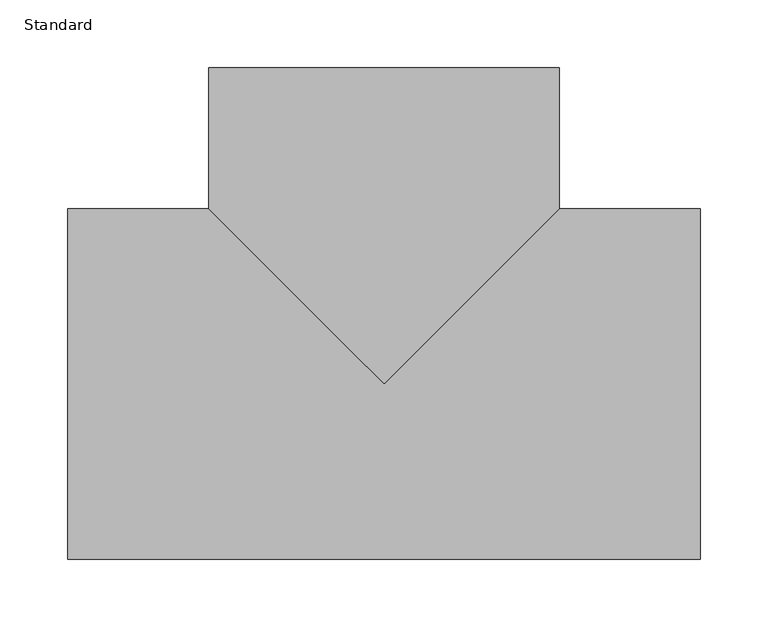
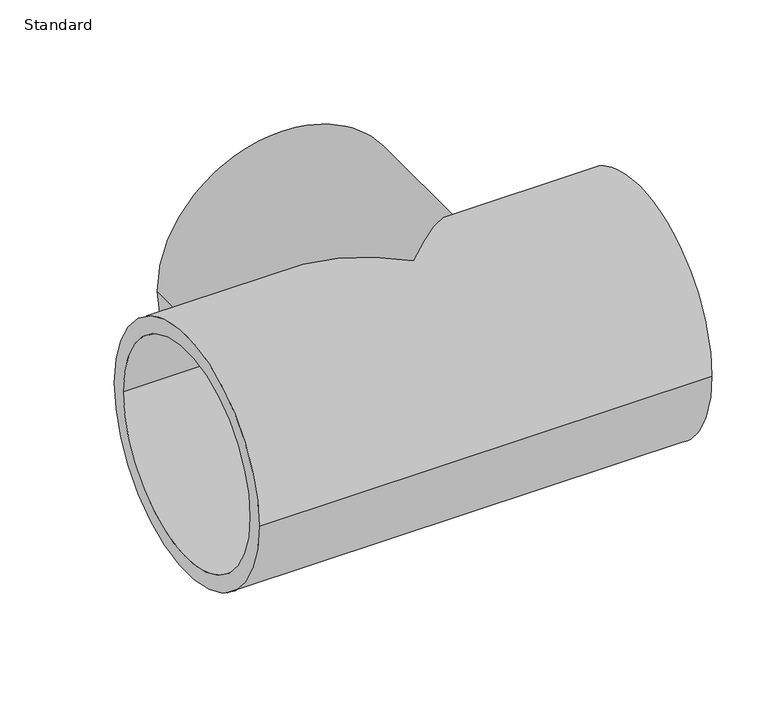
"""IFC4 building model written with IfcOpenShell, lengths in millimetres: pipe fitting geometry, Durapipe_PipeFitting_PVC_Tee90degEqual : Standard."""

import ifcopenshell
import ifcopenshell.guid

model = None  # the IFC model being written
_history = None  # IfcOwnerHistory: only IFC2X3 demands one
_inside = {}  # id of a spatial element -> (the spatial element, [elements in it])
_under = {}  # id of a project, library or spatial element -> (it, [spatial elements below it])
_declared = {}  # id of a project -> (the project, [libraries it declares])
_typed = {}  # id of a type object -> (the type object, [elements of that type])
_made_of = {}  # id of a material, layer set ... -> (it, [elements and type objects made of it])


def new_model(schema):
    """Start an empty IFC model of exactly this schema.

    Asked for "IFC4X3", IfcOpenShell would pick the latest addendum, in which some entities
    have other attributes; the version numbers below select the first issue.
    IFC2X3 requires an IfcOwnerHistory on every rooted entity: one is made here for all.
    """
    global model, _history
    if schema == "IFC4X3":
        model = ifcopenshell.file(schema_version=(4, 3, 0, 0))
    else:
        model = ifcopenshell.file(schema=schema)
    _inside.clear()
    _under.clear()
    _declared.clear()
    _typed.clear()
    _made_of.clear()
    _history = None
    if model.schema == "IFC2X3":
        org = make("IfcOrganization", Name="unknown")
        user = make(
            "IfcPersonAndOrganization",
            ThePerson=make("IfcPerson", FamilyName="unknown"),
            TheOrganization=org,
        )
        app = make(
            "IfcApplication",
            ApplicationDeveloper=org,
            Version="unknown",
            ApplicationFullName="unknown",
            ApplicationIdentifier="unknown",
        )
        _history = make(
            "IfcOwnerHistory",
            OwningUser=user,
            OwningApplication=app,
            ChangeAction="ADDED",
            CreationDate=0,
        )
    return model


def make(cls, **values):
    """One entity of the class cls with the attributes given. An attribute that is None is left unset."""
    return model.create_entity(
        cls, **{name: value for name, value in values.items() if value is not None}
    )


def rooted(cls, **values):
    """An entity with a GlobalId (a new one), such as an element, a storey or a relation."""
    return make(cls, GlobalId=ifcopenshell.guid.new(), OwnerHistory=_history, **values)


def si_unit(unit_type, name, prefix=None):
    """IfcSIUnit, for example si_unit("LENGTHUNIT", "METRE", prefix="MILLI")."""
    return make("IfcSIUnit", UnitType=unit_type, Prefix=prefix, Name=name)


def assignment(units):
    """IfcUnitAssignment: the units of a project."""
    return None if units is None else make("IfcUnitAssignment", Units=units)


def point(xyz):
    """IfcCartesianPoint."""
    return None if xyz is None else make("IfcCartesianPoint", Coordinates=xyz)


def direction(xyz):
    """IfcDirection."""
    return None if xyz is None else make("IfcDirection", DirectionRatios=xyz)


def frame(location, z_axis=None, x_axis=None):
    """IfcAxis2Placement3D, a coordinate frame: its origin and axes. An axis left out is left unset."""
    return make(
        "IfcAxis2Placement3D",
        Location=point(location),
        Axis=direction(z_axis),
        RefDirection=direction(x_axis),
    )


def origin():
    """The frame at (0, 0, 0) with its axes left unset."""
    return frame((0.0, 0.0, 0.0))


def place(relative_to, where):
    """IfcLocalPlacement: puts the frame where relative to a parent placement (None: the world)."""
    return make(
        "IfcLocalPlacement", PlacementRelTo=relative_to, RelativePlacement=where
    )


def context(
    kind, dimensions, precision=None, world=None, true_north=None, identifier=None
):
    """IfcGeometricRepresentationContext, for example the 3D "Model" context."""
    return make(
        "IfcGeometricRepresentationContext",
        ContextIdentifier=identifier,
        ContextType=kind,
        CoordinateSpaceDimension=dimensions,
        Precision=precision,
        WorldCoordinateSystem=world,
        TrueNorth=true_north,
    )


def project(units=None, contexts=None):
    """IfcProject with its units and contexts."""
    return rooted(
        "IfcProject",
        Name="project",
        RepresentationContexts=contexts,
        UnitsInContext=assignment(units),
    )


def spatial(cls, under=None, at=None, **own):
    """A site, building, storey or space (cls), placed at a placement, below another one or the project."""
    s = rooted(cls, ObjectPlacement=at, **own)
    if under is not None:
        _under.setdefault(under.id(), (under, []))[1].append(s)
    return s


def polyline(points):
    """IfcPolyline through the points."""
    return make("IfcPolyline", Points=[point(p) for p in points])


def circle_curve(where, radius):
    """IfcCircle in the frame where."""
    return make("IfcCircle", Position=where, Radius=radius)


def ellipse_curve(where, semi_axis1, semi_axis2):
    """IfcEllipse in the frame where."""
    return make(
        "IfcEllipse", Position=where, SemiAxis1=semi_axis1, SemiAxis2=semi_axis2
    )


def shape(context_of_items, identifier, shape_type, items):
    """IfcShapeRepresentation: the items that make up one representation, for example the "Body"."""
    return make(
        "IfcShapeRepresentation",
        ContextOfItems=context_of_items,
        RepresentationIdentifier=identifier,
        RepresentationType=shape_type,
        Items=items,
    )


def source(mapping_origin, context_of_items, identifier, shape_type, items):
    """IfcRepresentationMap: a shape defined once, which mapped items show again and again."""
    return make(
        "IfcRepresentationMap",
        MappingOrigin=mapping_origin,
        MappedRepresentation=shape(context_of_items, identifier, shape_type, items),
    )


def transform(
    local_origin,
    x_axis=None,
    y_axis=None,
    z_axis=None,
    scale=None,
    scale2=None,
    scale3=None,
    uniform=True,
):
    """IfcCartesianTransformationOperator3D, or its non-uniform kind. x_axis, y_axis, z_axis: its Axis1, 2, 3."""
    if uniform:
        return make(
            "IfcCartesianTransformationOperator3D",
            Axis1=direction(x_axis),
            Axis2=direction(y_axis),
            LocalOrigin=point(local_origin),
            Scale=scale,
            Axis3=direction(z_axis),
        )
    return make(
        "IfcCartesianTransformationOperator3DnonUniform",
        Axis1=direction(x_axis),
        Axis2=direction(y_axis),
        LocalOrigin=point(local_origin),
        Scale=scale,
        Axis3=direction(z_axis),
        Scale2=scale2,
        Scale3=scale3,
    )


def mapped(mapping_source, mapping_target):
    """IfcMappedItem: shows the shape of a source again, moved by a transform."""
    return make(
        "IfcMappedItem", MappingSource=mapping_source, MappingTarget=mapping_target
    )


def made_of(thing, what):
    """Note that an element or type object is made of a material, layer set ...; save() writes the relation."""
    if what is not None:
        _made_of.setdefault(what.id(), (what, []))[1].append(thing)
    return thing


def element(
    cls,
    number,
    at=None,
    inside=None,
    cuts=None,
    type_object=None,
    material=None,
    context=None,
    identifier="Body",
    shape_type=None,
    held_by="IfcProductDefinitionShape",
    body=None,
    shapes=None,
    **own,
):
    """One element of the class cls, such as IfcWall. Its Tag is "e" and its number.

    at: its placement. inside: the storey or other place that contains it. cuts: it is an
    opening in that element (IfcRelVoidsElement). A single representation is given by context,
    identifier, shape_type and body (its items); several are given by shapes. held_by: the class
    of the entity that holds the representations. save() writes the other relations.
    """
    e = rooted(cls, Tag="e%d" % number, ObjectPlacement=at, **own)
    if body is not None:
        shapes = [shape(context, identifier, shape_type, body)]
    if shapes is not None:
        e.Representation = make(held_by, Representations=shapes)
    if inside is not None:
        _inside.setdefault(inside.id(), (inside, []))[1].append(e)
    if cuts is not None:
        rooted(
            "IfcRelVoidsElement", RelatingBuildingElement=cuts, RelatedOpeningElement=e
        )
    if type_object is not None:
        _typed.setdefault(type_object.id(), (type_object, []))[1].append(e)
    return made_of(e, material)


def aggregate(whole, parts):
    """IfcRelAggregates: a whole, such as a stair, and the parts it consists of."""
    return rooted("IfcRelAggregates", RelatingObject=whole, RelatedObjects=parts)


def save(model, path):
    """Write the relations noted so far, then the file.

    IfcRelAggregates (storeys below a building ...), IfcRelContainedInSpatialStructure (elements
    in a storey), IfcRelDefinesByType, IfcRelAssociatesMaterial and IfcRelDeclares: one each for
    every whole, place, type object, material and project.
    """
    for whole, parts in _under.values():
        aggregate(whole, parts)
    for where, things in _inside.values():
        rooted(
            "IfcRelContainedInSpatialStructure",
            RelatedElements=things,
            RelatingStructure=where,
        )
    for kind, things in _typed.values():
        rooted("IfcRelDefinesByType", RelatedObjects=things, RelatingType=kind)
    for what, things in _made_of.values():
        rooted("IfcRelAssociatesMaterial", RelatedObjects=things, RelatingMaterial=what)
    for by, libraries in _declared.values():
        rooted("IfcRelDeclares", RelatingContext=by, RelatedDefinitions=libraries)
    model.write(path)


def plane_surface(at):
    """IfcPlane: the flat surface through the origin of the frame at, square to its z axis."""
    return make("IfcPlane", Position=at)


def cylinder_surface(at, radius):
    """IfcCylindricalSurface: all points at the distance radius from the z axis of the frame at."""
    return make("IfcCylindricalSurface", Position=at, Radius=radius)


def revolved_surface(curve, axis_point, axis_direction):
    """IfcSurfaceOfRevolution: the curve turned about the line through axis_point along axis_direction."""
    return make(
        "IfcSurfaceOfRevolution",
        SweptCurve=make("IfcArbitraryOpenProfileDef", ProfileType="CURVE", Curve=curve),
        AxisPosition=make("IfcAxis1Placement", Location=point(axis_point), Axis=direction(axis_direction)),
    )


def advanced_brep(points, edges, surfaces, faces):
    """IfcAdvancedBrep: a solid bounded by faces that lie on surfaces and meet in shared edges.

    An edge is (start, end): straight between two places in points (the first is 0);
    or (start, end, curve); or (start, end, curve, False) where it runs against its curve.
    A face is (place in surfaces, loops), or (place, loops, False) where it looks against
    its surface's normal. A loop lists edges by number (the first is 1), with a minus sign
    where the edge is run from its end to its start. The first loop is the outer one.
    """
    corners = [point(p) for p in points]
    vertices = [make("IfcVertexPoint", VertexGeometry=c) for c in corners]
    made = []
    for start, end, *more in edges:
        made.append(
            make(
                "IfcEdgeCurve",
                EdgeStart=vertices[start],
                EdgeEnd=vertices[end],
                EdgeGeometry=more[0] if more else make("IfcPolyline", Points=[corners[start], corners[end]]),
                SameSense=more[1] if len(more) > 1 else True,
            )
        )
    hull = []
    for where, loops, *sense in faces:
        bounds = []
        for j, loop in enumerate(loops):
            ring = [make("IfcOrientedEdge", EdgeElement=made[abs(k) - 1], Orientation=k > 0) for k in loop]
            bounds.append(
                make(
                    "IfcFaceOuterBound" if j == 0 else "IfcFaceBound",
                    Bound=make("IfcEdgeLoop", EdgeList=ring),
                    Orientation=True,
                )
            )
        hull.append(make("IfcAdvancedFace", Bounds=bounds, FaceSurface=surfaces[where], SameSense=sense[0] if sense else True))
    return make("IfcAdvancedBrep", Outer=make("IfcClosedShell", CfsFaces=hull))


def standard_31d33d31(model_context):
    return source(origin(), model_context, "Body", "AdvancedBrep", [
        advanced_brep(
        [(-129.0, 233.0, 0.0), (129.0, 233.0, 0.0), (-112.5, 233.0, 0.0), (112.5, 233.0, 0.0), (-129.0, 129.0, 0.0), (0.0, 0.0, 129.0), (129.0, 129.0, 0.0), (0.0, 0.0, -129.0), (-233.0, -129.0, 0.0), (-233.0, 129.0, 0.0), (-233.0, -112.5, 0.0), (-233.0, 112.5, 0.0), (233.0, -129.0, 0.0), (233.0, 129.0, 0.0), (233.0, 112.5, 0.0), (233.0, -112.5, 0.0), (112.5, 114.0, 0.0), (-112.5, 114.0, 0.0), (0.0, 114.0, 0.0), (114.0, -112.5, 0.0), (114.0, 112.5, 0.0), (114.0, 0.0, 0.0), (-114.0, -112.5, 0.0), (-114.0, 112.5, 0.0), (-114.0, 0.0, 0.0)],
        [
            (0, 1, circle_curve(frame((0.0, 233.0, 0.0), z_axis=(0.0, 1.0, 0.0), x_axis=(1.0, 0.0, 0.0)), 129.0)),
            (1, 0, circle_curve(frame((0.0, 233.0, 0.0), z_axis=(0.0, 1.0, 0.0), x_axis=(1.0, 0.0, 0.0)), 129.0)),
            (2, 3, circle_curve(frame((0.0, 233.0, 0.0), z_axis=(0.0, -1.0, 0.0), x_axis=(-1.0, 0.0, 0.0)), 112.5)),
            (3, 2, circle_curve(frame((0.0, 233.0, 0.0), z_axis=(0.0, -1.0, 0.0), x_axis=(-1.0, 0.0, 0.0)), 112.5)),
            (0, 4),
            (4, 5, ellipse_curve(frame((0.0, 0.0, 0.0), z_axis=(0.7071067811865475, 0.7071067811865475, 0.0), x_axis=(-0.7071067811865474, 0.7071067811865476, 0.0)), 182.4335495, 129.0)),
            (5, 6, ellipse_curve(frame((0.0, 0.0, 0.0), z_axis=(-0.7071067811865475, 0.7071067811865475, 0.0), x_axis=(0.7071067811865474, 0.7071067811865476, 0.0)), 182.4335495, 129.0)),
            (6, 1),
            (6, 7, ellipse_curve(frame((0.0, 0.0, 0.0), z_axis=(-0.7071067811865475, 0.7071067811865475, 0.0), x_axis=(0.7071067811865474, 0.7071067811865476, 0.0)), 182.4335495, 129.0)),
            (7, 4, ellipse_curve(frame((0.0, 0.0, 0.0), z_axis=(0.7071067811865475, 0.7071067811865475, 0.0), x_axis=(-0.7071067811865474, 0.7071067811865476, 0.0)), 182.4335495, 129.0)),
            (8, 9, circle_curve(frame((-233.0, 0.0, 0.0), z_axis=(-1.0, 0.0, 0.0), x_axis=(0.0, 1.0, 0.0)), 129.0)),
            (9, 8, circle_curve(frame((-233.0, 0.0, 0.0), z_axis=(-1.0, 0.0, 0.0), x_axis=(0.0, 1.0, 0.0)), 129.0)),
            (10, 11, circle_curve(frame((-233.0, 0.0, 0.0), z_axis=(1.0, 0.0, 0.0), x_axis=(0.0, 1.0, 0.0)), 112.5)),
            (11, 10, circle_curve(frame((-233.0, 0.0, 0.0), z_axis=(1.0, 0.0, 0.0), x_axis=(0.0, 1.0, 0.0)), 112.5)),
            (12, 13, circle_curve(frame((233.0, 0.0, 0.0), z_axis=(1.0, 0.0, 0.0), x_axis=(0.0, 1.0, 0.0)), 129.0)),
            (13, 12, circle_curve(frame((233.0, 0.0, 0.0), z_axis=(1.0, 0.0, 0.0), x_axis=(0.0, 1.0, 0.0)), 129.0)),
            (14, 15, circle_curve(frame((233.0, 0.0, 0.0), z_axis=(-1.0, 0.0, 0.0), x_axis=(0.0, 1.0, 0.0)), 112.5)),
            (15, 14, circle_curve(frame((233.0, 0.0, 0.0), z_axis=(-1.0, 0.0, 0.0), x_axis=(0.0, 1.0, 0.0)), 112.5)),
            (8, 12),
            (13, 6),
            (4, 9),
            (16, 3),
            (2, 17),
            (17, 16, circle_curve(frame((0.0, 114.0, 0.0), z_axis=(0.0, -1.0, 0.0), x_axis=(-1.0, 0.0, 0.0)), 112.5)),
            (16, 17, circle_curve(frame((0.0, 114.0, 0.0), z_axis=(0.0, -1.0, 0.0), x_axis=(-1.0, 0.0, 0.0)), 112.5)),
            (17, 18),
            (18, 16),
            (19, 15),
            (14, 20),
            (20, 19, circle_curve(frame((114.0, 0.0, 0.0), z_axis=(-1.0, 0.0, 0.0), x_axis=(0.0, 1.0, 0.0)), 112.5)),
            (19, 20, circle_curve(frame((114.0, 0.0, 0.0), z_axis=(-1.0, 0.0, 0.0), x_axis=(0.0, 1.0, 0.0)), 112.5)),
            (20, 21),
            (21, 19),
            (10, 22),
            (22, 23, circle_curve(frame((-114.0, 0.0, 0.0), z_axis=(1.0, 0.0, 0.0), x_axis=(0.0, 1.0, 0.0)), 112.5)),
            (23, 11),
            (23, 22, circle_curve(frame((-114.0, 0.0, 0.0), z_axis=(1.0, 0.0, 0.0), x_axis=(0.0, 1.0, 0.0)), 112.5)),
            (22, 24),
            (24, 23),
        ],
        [
            plane_surface(frame((0.0, 233.0, 0.0), z_axis=(0.0, 1.0, 0.0), x_axis=(0.0, 0.0, 1.0))),
            cylinder_surface(frame((0.0, 233.0, 0.0), z_axis=(0.0, 1.0, 0.0), x_axis=(1.0, 0.0, 0.0)), 129.0),
            plane_surface(frame((-233.0, 0.0, 0.0), z_axis=(-1.0, 0.0, 0.0), x_axis=(0.0, 0.0, 1.0))),
            plane_surface(frame((233.0, 0.0, 0.0), z_axis=(1.0, 0.0, 0.0), x_axis=(0.0, 0.0, 1.0))),
            cylinder_surface(frame((-233.0, 0.0, 0.0), z_axis=(-1.0, 0.0, 0.0), x_axis=(0.0, 1.0, 0.0)), 129.0),
            revolved_surface(polyline([(-112.5, 114.0, 0.0), (-112.5, 233.0, 0.0)]), (0.0, 2208.0, 0.0), (0.0, -1.0, 0.0)),
            plane_surface(frame((0.0, 114.0, 0.0), z_axis=(0.0, 1.0, 0.0), x_axis=(-1.0, 0.0, 0.0))),
            revolved_surface(polyline([(114.0, 112.5, 0.0), (233.0, 112.5, 0.0)]), (2209.5, 0.0, 0.0), (-1.0, 0.0, 0.0)),
            plane_surface(frame((114.0, 0.0, 0.0), z_axis=(1.0, 0.0, 0.0), x_axis=(0.0, 1.0, 0.0))),
            revolved_surface(polyline([(-233.0, 112.5, 0.0), (-114.0, 112.5, 0.0)]), (2209.5, 0.0, 0.0), (-1.0, 0.0, 0.0)),
            plane_surface(frame((-114.0, 0.0, 0.0), z_axis=(-1.0, 0.0, 0.0), x_axis=(0.0, 1.0, 0.0))),
        ],
        [
            (0, [[1, 2], [3, 4]]),
            (1, [[-1, 5, 6, 7, 8]]),
            (1, [[-2, -8, 9, 10, -5]]),
            (2, [[11, 12], [13, 14]]),
            (3, [[15, 16], [17, 18]]),
            (4, [[-11, 19, -16, 20, -7, -6, 21]]),
            (4, [[-12, -21, -10, -9, -20, -15, -19]]),
            (5, [[22, -3, 23, 24]]),
            (5, [[-22, 25, -23, -4]]),
            (6, [[-24, 26, 27]]),
            (6, [[-25, -27, -26]]),
            (7, [[28, -17, 29, 30]]),
            (7, [[-28, 31, -29, -18]]),
            (8, [[-30, 32, 33]]),
            (8, [[-31, -33, -32]]),
            (9, [[34, 35, 36, -13]]),
            (9, [[-34, -14, -36, 37]]),
            (10, [[-35, 38, 39]]),
            (10, [[-37, -39, -38]]),
        ],
    ),
    ])


if __name__ == "__main__":
    model = new_model("IFC4")
    model_context = context("Model", 3, world=origin())
    ifc_project = project(units=[si_unit("LENGTHUNIT", "METRE", prefix="MILLI")], contexts=[model_context])
    site = spatial("IfcSite", under=ifc_project)
    building = spatial("IfcBuilding", under=site)
    placement = place(None, origin())
    standard_shape = standard_31d33d31(model_context)
    element("IfcPipeFitting", 1, ObjectType="Durapipe_PipeFitting_PVC_Tee90degEqual : Standard", at=placement, inside=building, context=model_context, shape_type="MappedRepresentation", body=[
        mapped(standard_shape, transform((0.0, 0.0, 0.0), x_axis=(1.0, 0.0, 0.0), y_axis=(0.0, 1.0, 0.0), z_axis=(0.0, 0.0, 1.0))),
    ])
    save(model, "model.ifc")
